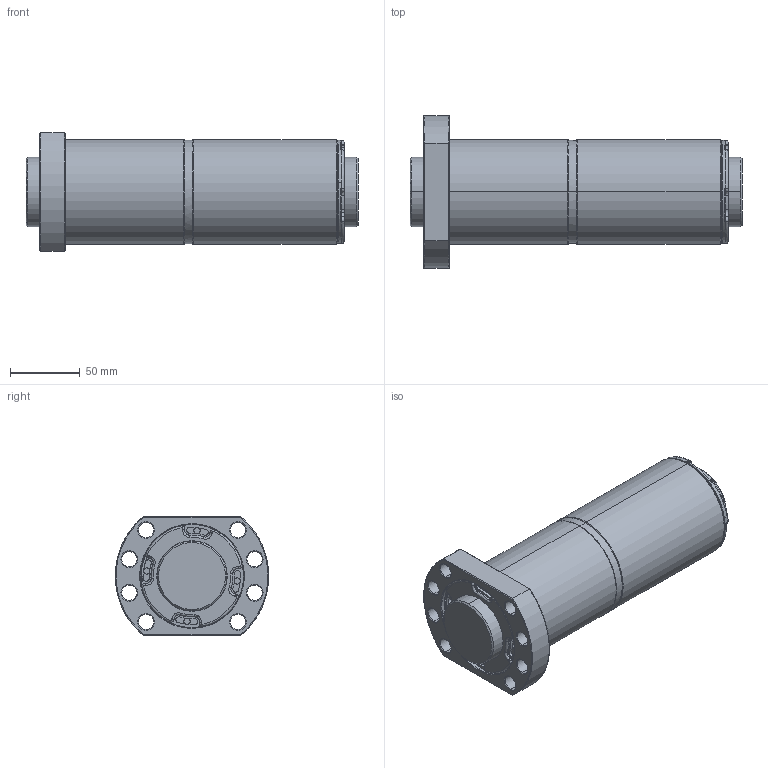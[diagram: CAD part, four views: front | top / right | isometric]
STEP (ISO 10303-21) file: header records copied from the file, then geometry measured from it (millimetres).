
FILE_DESCRIPTION (( 'STEP AP203' ), '1' );
FILE_NAME ('DFSR05020C1D-C.STEP', '2020-06-17T02:04:14', ( '' ), ( '' ), 'SwSTEP 2.0', 'SolidWorks 2013', '' );
FILE_SCHEMA (( 'CONFIG_CONTROL_DESIGN' ));
Length unit declared in the file: millimetre
Products named in the file (1): DFSR05020C1D-C
Bounding box: 238 x 109.87 x 85 mm (x, y, z)
Volume: 1025406.5 mm3; surface area: 149053 mm2
Topology: 2 solids, 3 shells, 375 faces, 899 edges, 546 vertices
Faces by surface type: cylinder 173, plane 85, bspline 76, cone 41
Entity records: 15237 total; most frequent: CARTESIAN_POINT 6517, DIRECTION 1918, ORIENTED_EDGE 1798, EDGE_CURVE 899, AXIS2_PLACEMENT_3D 819, VERTEX_POINT 546, CIRCLE 519, EDGE_LOOP 413
